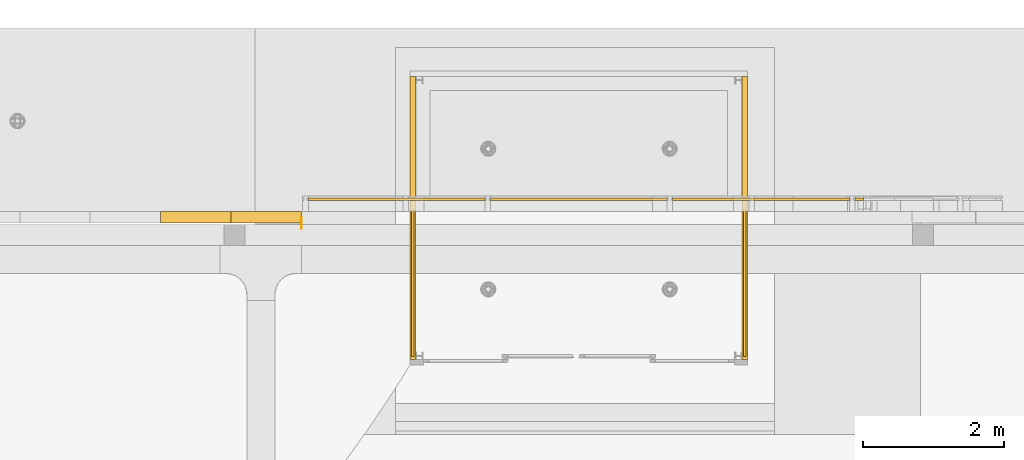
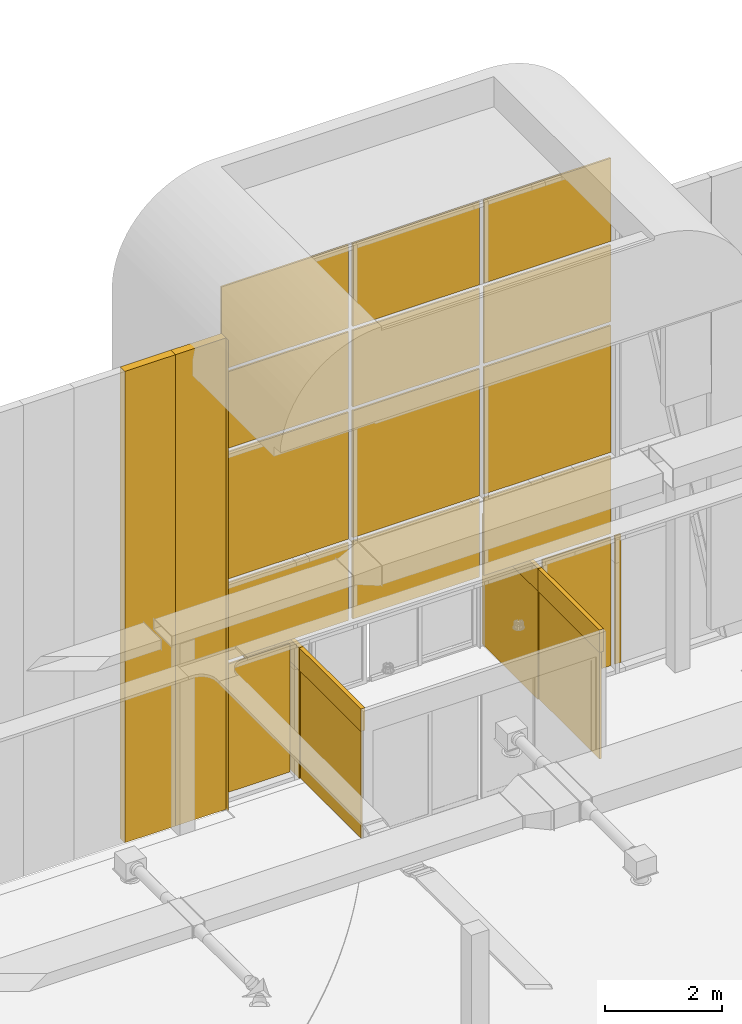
# One storey, part 230 of 302: 26 curtain walls, 4 elements without a shape of their own.
"""IFC2X3 building model written with IfcOpenShell, lengths in metres."""

from ifc_helpers import new_model, entity, si_unit, converted_unit, derived_unit, direction, frame, frame_2d, origin, place, context, subcontext, project, spatial, rectangle, extrude, material, layer, layer_set, layer_usage, type_object, element, aggregate, save


model = new_model("IFC2X3")

# Units and contexts
model_context = context("Model", 3, precision=1e-05, world=origin(), true_north=direction((6.12303176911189e-17, 1.0)))
body_context = subcontext(model_context, "Body", "Model", "MODEL_VIEW")
ifc_project = project(units=[si_unit("LENGTHUNIT", "METRE"), si_unit("AREAUNIT", "SQUARE_METRE"), si_unit("VOLUMEUNIT", "CUBIC_METRE"), converted_unit("PLANEANGLEUNIT", "DEGREE", entity("IfcRatioMeasure", 0.0174532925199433), si_unit("PLANEANGLEUNIT", "RADIAN"), dimensions=[0, 0, 0, 0, 0, 0, 0]), si_unit("MASSUNIT", "GRAM", prefix="KILO"), derived_unit("MASSDENSITYUNIT", [(si_unit("MASSUNIT", "GRAM", prefix="KILO"), 1), (si_unit("LENGTHUNIT", "METRE"), -3)]), derived_unit("MOMENTOFINERTIAUNIT", [(si_unit("LENGTHUNIT", "METRE"), 4)]), si_unit("TIMEUNIT", "SECOND"), si_unit("FREQUENCYUNIT", "HERTZ"), si_unit("THERMODYNAMICTEMPERATUREUNIT", "DEGREE_CELSIUS"), derived_unit("THERMALTRANSMITTANCEUNIT", [(si_unit("MASSUNIT", "GRAM", prefix="KILO"), 1), (si_unit("THERMODYNAMICTEMPERATUREUNIT", "KELVIN"), -1), (si_unit("TIMEUNIT", "SECOND"), -3)]), derived_unit("VOLUMETRICFLOWRATEUNIT", [(si_unit("LENGTHUNIT", "METRE"), 3), (si_unit("TIMEUNIT", "SECOND"), -1)]), si_unit("ELECTRICCURRENTUNIT", "AMPERE"), si_unit("ELECTRICVOLTAGEUNIT", "VOLT"), si_unit("POWERUNIT", "WATT"), si_unit("FORCEUNIT", "NEWTON", prefix="KILO"), si_unit("ILLUMINANCEUNIT", "LUX"), si_unit("LUMINOUSFLUXUNIT", "LUMEN"), si_unit("LUMINOUSINTENSITYUNIT", "CANDELA"), derived_unit("USERDEFINED", [(si_unit("MASSUNIT", "GRAM", prefix="KILO"), -1), (si_unit("LENGTHUNIT", "METRE"), -2), (si_unit("TIMEUNIT", "SECOND"), 3), (si_unit("LUMINOUSFLUXUNIT", "LUMEN"), 1)]), derived_unit("LINEARVELOCITYUNIT", [(si_unit("LENGTHUNIT", "METRE"), 1), (si_unit("TIMEUNIT", "SECOND"), -1)]), si_unit("PRESSUREUNIT", "PASCAL"), derived_unit("USERDEFINED", [(si_unit("LENGTHUNIT", "METRE"), -2), (si_unit("MASSUNIT", "GRAM", prefix="KILO"), 1), (si_unit("TIMEUNIT", "SECOND"), -2)]), derived_unit("LINEARFORCEUNIT", [(si_unit("MASSUNIT", "GRAM", prefix="KILO"), 1), (si_unit("LENGTHUNIT", "METRE"), 1), (si_unit("TIMEUNIT", "SECOND"), -2), (si_unit("LENGTHUNIT", "METRE"), -1)]), derived_unit("PLANARFORCEUNIT", [(si_unit("MASSUNIT", "GRAM", prefix="KILO"), 1), (si_unit("LENGTHUNIT", "METRE"), 1), (si_unit("TIMEUNIT", "SECOND"), -2), (si_unit("LENGTHUNIT", "METRE"), -2)])], contexts=[model_context])

# Site, building, storey
site_placement = place(None, origin())
site = spatial("IfcSite", under=ifc_project, at=site_placement, Name="Default", CompositionType="ELEMENT")
building_placement = place(site_placement, origin())
building = spatial("IfcBuilding", under=site, at=building_placement, CompositionType="ELEMENT")
storey_placement = place(building_placement, frame((0.0, 0.0, -1.3)))
storey = spatial("IfcBuildingStorey", under=building, at=storey_placement, Name="00_EG", CompositionType="ELEMENT", Elevation=-1.3)

# Curtain walls
curtain_wall_type_1 = type_object("IfcCurtainWallType", Name="Fassade:Sandwichpaneele 16cm", PredefinedType="NOTDEFINED")
curtain_wall_1_placement = place(storey_placement, frame((0.0, 0.0, 1.3)))
curtain_wall_1 = element("IfcCurtainWall", 1, at=curtain_wall_1_placement, inside=storey, type_object=curtain_wall_type_1, Name="Fassade:Sandwichpaneele 16cm", ObjectType="Fassade:Sandwichpaneele 16cm")
ifc_material_1 = material(Name="Prepainted_Steel-ArcelorMittal_Construction_HAIRULTRA-35-CORAL-4309-[RAL_3000]")
ifc_layer_1 = layer(ifc_material_1, 0.015)
ifc_material_2 = material(Name="ArcelorMittal-MineralWool")
ifc_layer_2 = layer(ifc_material_2, 0.13)
ifc_material_3 = material(Name="Prepainted_Steel-ArcelorMittal_Construction_INTÉRIEUR-12-WHITE-912")
ifc_layer_3 = layer(ifc_material_3, 0.015)
ifc_layer_set_1 = layer_set([ifc_layer_1, ifc_layer_2, ifc_layer_3], Name="Fassade:Sandwichpaneele 16cm")
ifc_layer_usage_1 = layer_usage(ifc_layer_set_1, "AXIS2", "POSITIVE", -0.08)
curtain_wall_type_2 = type_object("IfcCurtainWallType", Name="Basiswand:Sandwichpaneele d = 16cm aussen", PredefinedType="NOTDEFINED", material=ifc_layer_set_1)
curtain_wall_2_placement = place(storey_placement, frame((-236.193861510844, 45.578088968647, 1.27), z_axis=(0.0, 0.0, 1.0), x_axis=(-1.0, 0.0, 0.0)))
curtain_wall_2 = element("IfcCurtainWall", 2, at=curtain_wall_2_placement, type_object=curtain_wall_type_2, material=ifc_layer_usage_1, Name="Basiswand:Sandwichpaneele d = 16cm aussen", ObjectType="Basiswand:Sandwichpaneele d = 16cm aussen", context=body_context, shape_type="SweptSolid", body=[
    extrude(rectangle(XDim=0.00500000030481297, YDim=0.159999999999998, at=frame_2d((0.00250000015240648, 0.0), x_axis=(-1.0, 0.0))), origin(), (0.0, 0.0, 1.0), 9.8509),
])
ifc_layer_usage_2 = layer_usage(ifc_layer_set_1, "AXIS2", "POSITIVE", -0.08)
curtain_wall_3_placement = place(storey_placement, frame((-236.198861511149, 45.658088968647, 1.27), z_axis=(0.0, 0.0, 1.0), x_axis=(-1.0, 0.0, 0.0)))
curtain_wall_3 = element("IfcCurtainWall", 3, at=curtain_wall_3_placement, type_object=curtain_wall_type_2, material=ifc_layer_usage_2, Name="Basiswand:Sandwichpaneele d = 16cm aussen", ObjectType="Basiswand:Sandwichpaneele d = 16cm aussen", context=body_context, shape_type="SweptSolid", body=[
    extrude(rectangle(XDim=0.999999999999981, YDim=0.159999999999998, at=frame_2d((0.49999999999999, 0.0), x_axis=(-1.0, 0.0))), origin(), (0.0, 0.0, 1.0), 9.8509),
])
ifc_layer_usage_3 = layer_usage(ifc_layer_set_1, "AXIS2", "POSITIVE", -0.08)
curtain_wall_4_placement = place(storey_placement, frame((-237.198861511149, 45.658088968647, 1.27), z_axis=(0.0, 0.0, 1.0), x_axis=(-1.0, 0.0, 0.0)))
curtain_wall_4 = element("IfcCurtainWall", 4, at=curtain_wall_4_placement, type_object=curtain_wall_type_2, material=ifc_layer_usage_3, Name="Basiswand:Sandwichpaneele d = 16cm aussen", ObjectType="Basiswand:Sandwichpaneele d = 16cm aussen", context=body_context, shape_type="SweptSolid", body=[
    extrude(rectangle(XDim=1.00000000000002, YDim=0.159999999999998, at=frame_2d((0.500000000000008, 0.0), x_axis=(-1.0, 0.0))), origin(), (0.0, 0.0, 1.0), 9.8509),
])
aggregate(curtain_wall_1, [curtain_wall_2, curtain_wall_3, curtain_wall_4])

curtain_wall_type_3 = type_object("IfcCurtainWallType", Name="Fassade:Sandwichpaneele 8.4 cm", PredefinedType="NOTDEFINED")
curtain_wall_5_placement = place(storey_placement, frame((0.0, 0.0, 1.3)))
curtain_wall_5 = element("IfcCurtainWall", 5, at=curtain_wall_5_placement, inside=storey, type_object=curtain_wall_type_3, Name="Fassade:Sandwichpaneele 8.4 cm", ObjectType="Fassade:Sandwichpaneele 8.4 cm")
ifc_material_4 = material(Name="Glass")
ifc_layer_4 = layer(ifc_material_4, 0.035)
ifc_layer_set_2 = layer_set([ifc_layer_4], Name="Fassade:Sandwichpaneele 16cm")
ifc_layer_usage_4 = layer_usage(ifc_layer_set_2, "AXIS2", "NEGATIVE", 0.0175)
curtain_wall_type_4 = type_object("IfcCurtainWallType", Name="Basiswand:Glass", PredefinedType="NOTDEFINED", material=ifc_layer_set_2)
curtain_wall_6_placement = place(storey_placement, frame((-229.895861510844, 45.748088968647, 1.27), z_axis=(0.0, 0.0, 1.0), x_axis=(0.0, -1.0, 0.0)))
curtain_wall_6 = element("IfcCurtainWall", 6, at=curtain_wall_6_placement, type_object=curtain_wall_type_4, material=ifc_layer_usage_4, Name="Basiswand:Glass", ObjectType="Basiswand:Glass", context=body_context, shape_type="SweptSolid", body=[
    extrude(rectangle(XDim=2.07000000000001, YDim=0.0349999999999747, at=frame_2d((1.035, 0.0), x_axis=(-1.0, 0.0))), origin(), (0.0, 0.0, 1.0), 2.25999999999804),
])

curtain_wall_type_5 = type_object("IfcCurtainWallType", Name="Fassade:Glasfassade", PredefinedType="NOTDEFINED")
curtain_wall_7_placement = place(storey_placement, frame((0.0, 0.0, 1.3)))
curtain_wall_7 = element("IfcCurtainWall", 7, at=curtain_wall_7_placement, inside=storey, type_object=curtain_wall_type_5, Name="Fassade:Glasfassade", ObjectType="Fassade:Glasfassade")
ifc_layer_usage_5 = layer_usage(ifc_layer_set_2, "AXIS2", "POSITIVE", -0.0175)
curtain_wall_8_placement = place(storey_placement, frame((-228.207969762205, 45.915588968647, 1.35), z_axis=(0.0, 0.0, 1.0), x_axis=(-1.0, 0.0, 0.0)))
curtain_wall_8 = element("IfcCurtainWall", 8, at=curtain_wall_8_placement, type_object=curtain_wall_type_4, material=ifc_layer_usage_5, Name="Basiswand:Glass", ObjectType="Basiswand:Glass", context=body_context, shape_type="SweptSolid", body=[
    extrude(rectangle(XDim=0.119999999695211, YDim=0.034999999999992, at=frame_2d((0.0599999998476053, 0.0), x_axis=(-1.0, 0.0))), origin(), (0.0, 0.0, 1.0), 2.67999999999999),
])
ifc_layer_usage_6 = layer_usage(ifc_layer_set_2, "AXIS2", "POSITIVE", -0.0175)
curtain_wall_9_placement = place(storey_placement, frame((-228.4079697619, 45.915588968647, 1.35), z_axis=(0.0, 0.0, 1.0), x_axis=(-1.0, 0.0, 0.0)))
curtain_wall_9 = element("IfcCurtainWall", 9, at=curtain_wall_9_placement, type_object=curtain_wall_type_4, material=ifc_layer_usage_6, Name="Basiswand:Glass", ObjectType="Basiswand:Glass", context=body_context, shape_type="SweptSolid", body=[
    extrude(rectangle(XDim=1.34589174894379, YDim=0.034999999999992, at=frame_2d((0.672945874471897, 0.0), x_axis=(-1.0, 0.0))), origin(), (0.0, 0.0, 1.0), 2.67999999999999),
])
ifc_layer_usage_7 = layer_usage(ifc_layer_set_2, "AXIS2", "POSITIVE", -0.0175)
curtain_wall_10_placement = place(storey_placement, frame((-234.753861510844, 45.915588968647, 1.35), z_axis=(0.0, 0.0, 1.0), x_axis=(-1.0, 0.0, 0.0)))
curtain_wall_10 = element("IfcCurtainWall", 10, at=curtain_wall_10_placement, type_object=curtain_wall_type_4, material=ifc_layer_usage_7, Name="Basiswand:Glass", ObjectType="Basiswand:Glass", context=body_context, shape_type="SweptSolid", body=[
    extrude(rectangle(XDim=1.34500000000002, YDim=0.034999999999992, at=frame_2d((0.672500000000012, 0.0), x_axis=(-1.0, 0.0))), origin(), (0.0, 0.0, 1.0), 2.67999999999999),
])
ifc_layer_usage_8 = layer_usage(ifc_layer_set_2, "AXIS2", "POSITIVE", -0.0175)
curtain_wall_11_placement = place(storey_placement, frame((-228.4079697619, 45.915588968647, 4.10999999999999), z_axis=(0.0, 0.0, 1.0), x_axis=(-1.0, 0.0, 0.0)))
curtain_wall_11 = element("IfcCurtainWall", 11, at=curtain_wall_11_placement, type_object=curtain_wall_type_4, material=ifc_layer_usage_8, Name="Basiswand:Glass", ObjectType="Basiswand:Glass", context=body_context, shape_type="SweptSolid", body=[
    extrude(rectangle(XDim=2.51089174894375, YDim=0.034999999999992, at=frame_2d((1.25544587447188, 0.0), x_axis=(-1.0, 0.0))), origin(), (0.0, 0.0, 1.0), 1.62),
])
ifc_layer_usage_9 = layer_usage(ifc_layer_set_2, "AXIS2", "POSITIVE", -0.0175)
curtain_wall_12_placement = place(storey_placement, frame((-230.998861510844, 45.915588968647, 4.10999999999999), z_axis=(0.0, 0.0, 1.0), x_axis=(-1.0, 0.0, 0.0)))
curtain_wall_12 = element("IfcCurtainWall", 12, at=curtain_wall_12_placement, type_object=curtain_wall_type_4, material=ifc_layer_usage_9, Name="Basiswand:Glass", ObjectType="Basiswand:Glass", context=body_context, shape_type="SweptSolid", body=[
    extrude(rectangle(XDim=2.51000000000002, YDim=0.034999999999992, at=frame_2d((1.25500000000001, 0.0), x_axis=(-1.0, 0.0))), origin(), (0.0, 0.0, 1.0), 1.62),
])
ifc_layer_usage_10 = layer_usage(ifc_layer_set_2, "AXIS2", "POSITIVE", -0.0175)
curtain_wall_13_placement = place(storey_placement, frame((-233.588861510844, 45.915588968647, 4.10999999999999), z_axis=(0.0, 0.0, 1.0), x_axis=(-1.0, 0.0, 0.0)))
curtain_wall_13 = element("IfcCurtainWall", 13, at=curtain_wall_13_placement, type_object=curtain_wall_type_4, material=ifc_layer_usage_10, Name="Basiswand:Glass", ObjectType="Basiswand:Glass", context=body_context, shape_type="SweptSolid", body=[
    extrude(rectangle(XDim=2.51000000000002, YDim=0.034999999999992, at=frame_2d((1.25500000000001, 0.0), x_axis=(-1.0, 0.0))), origin(), (0.0, 0.0, 1.0), 1.62),
])
ifc_layer_usage_11 = layer_usage(ifc_layer_set_2, "AXIS2", "POSITIVE", -0.0175)
curtain_wall_14_placement = place(storey_placement, frame((-228.4079697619, 45.915588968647, 5.81), z_axis=(0.0, 0.0, 1.0), x_axis=(-1.0, 0.0, 0.0)))
curtain_wall_14 = element("IfcCurtainWall", 14, at=curtain_wall_14_placement, type_object=curtain_wall_type_4, material=ifc_layer_usage_11, Name="Basiswand:Glass", ObjectType="Basiswand:Glass", context=body_context, shape_type="SweptSolid", body=[
    extrude(rectangle(XDim=2.51089174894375, YDim=0.034999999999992, at=frame_2d((1.25544587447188, 0.0), x_axis=(-1.0, 0.0))), origin(), (0.0, 0.0, 1.0), 2.64999999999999),
])
ifc_layer_usage_12 = layer_usage(ifc_layer_set_2, "AXIS2", "POSITIVE", -0.0175)
curtain_wall_15_placement = place(storey_placement, frame((-230.998861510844, 45.915588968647, 5.81), z_axis=(0.0, 0.0, 1.0), x_axis=(-1.0, 0.0, 0.0)))
curtain_wall_15 = element("IfcCurtainWall", 15, at=curtain_wall_15_placement, type_object=curtain_wall_type_4, material=ifc_layer_usage_12, Name="Basiswand:Glass", ObjectType="Basiswand:Glass", context=body_context, shape_type="SweptSolid", body=[
    extrude(rectangle(XDim=2.51000000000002, YDim=0.034999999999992, at=frame_2d((1.25500000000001, 0.0), x_axis=(-1.0, 0.0))), origin(), (0.0, 0.0, 1.0), 2.65),
])
ifc_layer_usage_13 = layer_usage(ifc_layer_set_2, "AXIS2", "POSITIVE", -0.0175)
curtain_wall_16_placement = place(storey_placement, frame((-233.588861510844, 45.915588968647, 5.81), z_axis=(0.0, 0.0, 1.0), x_axis=(-1.0, 0.0, 0.0)))
curtain_wall_16 = element("IfcCurtainWall", 16, at=curtain_wall_16_placement, type_object=curtain_wall_type_4, material=ifc_layer_usage_13, Name="Basiswand:Glass", ObjectType="Basiswand:Glass", context=body_context, shape_type="SweptSolid", body=[
    extrude(rectangle(XDim=2.51000000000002, YDim=0.034999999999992, at=frame_2d((1.25500000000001, 0.0), x_axis=(-1.0, 0.0))), origin(), (0.0, 0.0, 1.0), 2.65),
])
ifc_layer_usage_14 = layer_usage(ifc_layer_set_2, "AXIS2", "POSITIVE", -0.0175)
curtain_wall_17_placement = place(storey_placement, frame((-228.4079697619, 45.915588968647, 8.53999999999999), z_axis=(0.0, 0.0, 1.0), x_axis=(-1.0, 0.0, 0.0)))
curtain_wall_17 = element("IfcCurtainWall", 17, at=curtain_wall_17_placement, type_object=curtain_wall_type_4, material=ifc_layer_usage_14, Name="Basiswand:Glass", ObjectType="Basiswand:Glass", context=body_context, shape_type="SweptSolid", body=[
    extrude(rectangle(XDim=2.51089174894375, YDim=0.034999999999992, at=frame_2d((1.25544587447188, 0.0), x_axis=(-1.0, 0.0))), origin(), (0.0, 0.0, 1.0), 1.60000000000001),
])
ifc_layer_usage_15 = layer_usage(ifc_layer_set_2, "AXIS2", "POSITIVE", -0.0175)
curtain_wall_18_placement = place(storey_placement, frame((-230.998861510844, 45.915588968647, 8.53999999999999), z_axis=(0.0, 0.0, 1.0), x_axis=(-1.0, 0.0, 0.0)))
curtain_wall_18 = element("IfcCurtainWall", 18, at=curtain_wall_18_placement, type_object=curtain_wall_type_4, material=ifc_layer_usage_15, Name="Basiswand:Glass", ObjectType="Basiswand:Glass", context=body_context, shape_type="SweptSolid", body=[
    extrude(rectangle(XDim=2.51000000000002, YDim=0.034999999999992, at=frame_2d((1.25500000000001, 0.0), x_axis=(-1.0, 0.0))), origin(), (0.0, 0.0, 1.0), 1.60000000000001),
])
ifc_layer_usage_16 = layer_usage(ifc_layer_set_2, "AXIS2", "POSITIVE", -0.0175)
curtain_wall_19_placement = place(storey_placement, frame((-233.588861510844, 45.915588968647, 8.53999999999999), z_axis=(0.0, 0.0, 1.0), x_axis=(-1.0, 0.0, 0.0)))
curtain_wall_19 = element("IfcCurtainWall", 19, at=curtain_wall_19_placement, type_object=curtain_wall_type_4, material=ifc_layer_usage_16, Name="Basiswand:Glass", ObjectType="Basiswand:Glass", context=body_context, shape_type="SweptSolid", body=[
    extrude(rectangle(XDim=2.51000000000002, YDim=0.034999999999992, at=frame_2d((1.25500000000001, 0.0), x_axis=(-1.0, 0.0))), origin(), (0.0, 0.0, 1.0), 1.60000000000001),
])
ifc_layer_usage_17 = layer_usage(ifc_layer_set_2, "AXIS2", "POSITIVE", -0.0175)
curtain_wall_20_placement = place(storey_placement, frame((-228.4079697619, 45.915588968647, 10.22), z_axis=(0.0, 0.0, 1.0), x_axis=(-1.0, 0.0, 0.0)))
curtain_wall_20 = element("IfcCurtainWall", 20, at=curtain_wall_20_placement, type_object=curtain_wall_type_4, material=ifc_layer_usage_17, Name="Basiswand:Glass", ObjectType="Basiswand:Glass", context=body_context, shape_type="SweptSolid", body=[
    extrude(rectangle(XDim=2.51089174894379, YDim=0.034999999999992, at=frame_2d((1.25544587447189, 0.0), x_axis=(-1.0, 0.0))), origin(), (0.0, 0.0, 1.0), 1.73659527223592),
])
ifc_layer_usage_18 = layer_usage(ifc_layer_set_2, "AXIS2", "POSITIVE", -0.0175)
curtain_wall_21_placement = place(storey_placement, frame((-230.998861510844, 45.915588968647, 10.22), z_axis=(0.0, 0.0, 1.0), x_axis=(-1.0, 0.0, 0.0)))
curtain_wall_21 = element("IfcCurtainWall", 21, at=curtain_wall_21_placement, type_object=curtain_wall_type_4, material=ifc_layer_usage_18, Name="Basiswand:Glass", ObjectType="Basiswand:Glass", context=body_context, shape_type="SweptSolid", body=[
    extrude(rectangle(XDim=2.51000000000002, YDim=0.034999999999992, at=frame_2d((1.25500000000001, 0.0), x_axis=(-1.0, 0.0))), origin(), (0.0, 0.0, 1.0), 1.735),
])
ifc_layer_usage_19 = layer_usage(ifc_layer_set_2, "AXIS2", "POSITIVE", -0.0175)
curtain_wall_22_placement = place(storey_placement, frame((-233.588861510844, 45.915588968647, 10.22), z_axis=(0.0, 0.0, 1.0), x_axis=(-1.0, 0.0, 0.0)))
curtain_wall_22 = element("IfcCurtainWall", 22, at=curtain_wall_22_placement, type_object=curtain_wall_type_4, material=ifc_layer_usage_19, Name="Basiswand:Glass", ObjectType="Basiswand:Glass", context=body_context, shape_type="SweptSolid", body=[
    extrude(rectangle(XDim=2.51000000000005, YDim=0.034999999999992, at=frame_2d((1.25500000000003, 0.0), x_axis=(-1.0, 0.0))), origin(), (0.0, 0.0, 1.0), 1.73659527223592),
])
aggregate(curtain_wall_7, [curtain_wall_8, curtain_wall_9, curtain_wall_10, curtain_wall_11, curtain_wall_12, curtain_wall_13, curtain_wall_14, curtain_wall_15, curtain_wall_16, curtain_wall_17, curtain_wall_18, curtain_wall_19, curtain_wall_20, curtain_wall_21, curtain_wall_22])

curtain_wall_23_placement = place(storey_placement, frame((0.0, 0.0, 1.3)))
curtain_wall_23 = element("IfcCurtainWall", 23, at=curtain_wall_23_placement, inside=storey, type_object=curtain_wall_type_3, Name="Fassade:Sandwichpaneele 8.4 cm", ObjectType="Fassade:Sandwichpaneele 8.4 cm")
ifc_layer_usage_20 = layer_usage(ifc_layer_set_2, "AXIS2", "POSITIVE", -0.0175)
curtain_wall_24_placement = place(storey_placement, frame((-234.611861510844, 45.748088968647, 1.27), z_axis=(0.0, 0.0, 1.0), x_axis=(0.0, -1.0, 0.0)))
curtain_wall_24 = element("IfcCurtainWall", 24, at=curtain_wall_24_placement, type_object=curtain_wall_type_4, material=ifc_layer_usage_20, Name="Basiswand:Glass", ObjectType="Basiswand:Glass", context=body_context, shape_type="SweptSolid", body=[
    extrude(rectangle(XDim=2.07000000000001, YDim=0.0349999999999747, at=frame_2d((1.035, 0.0), x_axis=(-1.0, 0.0))), origin(), (0.0, 0.0, 1.0), 2.25999999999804),
])

# Curtain wall
ifc_layer_5 = layer(ifc_material_1, 0.005)
ifc_layer_6 = layer(ifc_material_2, 0.075)
ifc_layer_set_3 = layer_set([ifc_layer_5, ifc_layer_6], Name="Fassade:Sandwichpaneele 8.4 cm")
ifc_layer_usage_21 = layer_usage(ifc_layer_set_3, "AXIS2", "NEGATIVE", 0.04)
curtain_wall_type_6 = type_object("IfcCurtainWallType", Name="Basiswand:Sandwichpaneele d = 8.4cm aussen", PredefinedType="NOTDEFINED", material=ifc_layer_set_3)
curtain_wall_25_placement = place(storey_placement, frame((-229.895861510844, 47.658088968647, 1.27), z_axis=(0.0, 0.0, 1.0), x_axis=(0.0, -1.0, 0.0)))
curtain_wall_25 = element("IfcCurtainWall", 25, at=curtain_wall_25_placement, type_object=curtain_wall_type_6, material=ifc_layer_usage_21, Name="Basiswand:Sandwichpaneele d = 8.4cm aussen", ObjectType="Basiswand:Sandwichpaneele d = 8.4cm aussen", context=body_context, shape_type="SweptSolid", body=[
    extrude(rectangle(XDim=1.91, YDim=0.0799999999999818, at=frame_2d((0.955, 0.0), x_axis=(-1.0, 0.0))), origin(), (0.0, 0.0, 1.0), 2.25999999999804),
])

ifc_layer_usage_22 = layer_usage(ifc_layer_set_3, "AXIS2", "NEGATIVE", 0.04)
curtain_wall_26_placement = place(storey_placement, frame((-229.895861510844, 47.658088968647, 3.52999999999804), z_axis=(0.0, 0.0, 1.0), x_axis=(0.0, -1.0, 0.0)))
curtain_wall_26 = element("IfcCurtainWall", 26, at=curtain_wall_26_placement, type_object=curtain_wall_type_6, material=ifc_layer_usage_22, Name="Basiswand:Sandwichpaneele d = 8.4cm aussen", ObjectType="Basiswand:Sandwichpaneele d = 8.4cm aussen", context=body_context, shape_type="SweptSolid", body=[
    extrude(rectangle(XDim=1.91, YDim=0.0799999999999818, at=frame_2d((0.955, 0.0), x_axis=(-1.0, 0.0))), origin(), (0.0, 0.0, 1.0), 0.470000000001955),
])

ifc_layer_usage_23 = layer_usage(ifc_layer_set_3, "AXIS2", "NEGATIVE", 0.04)
curtain_wall_27_placement = place(storey_placement, frame((-229.895861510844, 45.748088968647, 3.52999999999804), z_axis=(0.0, 0.0, 1.0), x_axis=(0.0, -1.0, 0.0)))
curtain_wall_27 = element("IfcCurtainWall", 27, at=curtain_wall_27_placement, type_object=curtain_wall_type_6, material=ifc_layer_usage_23, Name="Basiswand:Sandwichpaneele d = 8.4cm aussen", ObjectType="Basiswand:Sandwichpaneele d = 8.4cm aussen", context=body_context, shape_type="SweptSolid", body=[
    extrude(rectangle(XDim=2.11000000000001, YDim=0.0799999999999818, at=frame_2d((1.055, 0.0), x_axis=(-1.0, 0.0))), origin(), (0.0, 0.0, 1.0), 0.470000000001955),
])

aggregate(curtain_wall_5, [curtain_wall_25, curtain_wall_6, curtain_wall_26, curtain_wall_27])

ifc_layer_usage_24 = layer_usage(ifc_layer_set_3, "AXIS2", "POSITIVE", -0.04)
curtain_wall_28_placement = place(storey_placement, frame((-234.611861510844, 47.658088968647, 1.27), z_axis=(0.0, 0.0, 1.0), x_axis=(0.0, -1.0, 0.0)))
curtain_wall_28 = element("IfcCurtainWall", 28, at=curtain_wall_28_placement, type_object=curtain_wall_type_6, material=ifc_layer_usage_24, Name="Basiswand:Sandwichpaneele d = 8.4cm aussen", ObjectType="Basiswand:Sandwichpaneele d = 8.4cm aussen", context=body_context, shape_type="SweptSolid", body=[
    extrude(rectangle(XDim=1.91, YDim=0.0799999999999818, at=frame_2d((0.955, 0.0), x_axis=(-1.0, 0.0))), origin(), (0.0, 0.0, 1.0), 2.25999999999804),
])

ifc_layer_usage_25 = layer_usage(ifc_layer_set_3, "AXIS2", "POSITIVE", -0.04)
curtain_wall_29_placement = place(storey_placement, frame((-234.611861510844, 47.658088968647, 3.52999999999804), z_axis=(0.0, 0.0, 1.0), x_axis=(0.0, -1.0, 0.0)))
curtain_wall_29 = element("IfcCurtainWall", 29, at=curtain_wall_29_placement, type_object=curtain_wall_type_6, material=ifc_layer_usage_25, Name="Basiswand:Sandwichpaneele d = 8.4cm aussen", ObjectType="Basiswand:Sandwichpaneele d = 8.4cm aussen", context=body_context, shape_type="SweptSolid", body=[
    extrude(rectangle(XDim=1.91, YDim=0.0799999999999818, at=frame_2d((0.955, 0.0), x_axis=(-1.0, 0.0))), origin(), (0.0, 0.0, 1.0), 0.470000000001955),
])

ifc_layer_usage_26 = layer_usage(ifc_layer_set_3, "AXIS2", "POSITIVE", -0.04)
curtain_wall_30_placement = place(storey_placement, frame((-234.611861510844, 45.748088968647, 3.52999999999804), z_axis=(0.0, 0.0, 1.0), x_axis=(0.0, -1.0, 0.0)))
curtain_wall_30 = element("IfcCurtainWall", 30, at=curtain_wall_30_placement, type_object=curtain_wall_type_6, material=ifc_layer_usage_26, Name="Basiswand:Sandwichpaneele d = 8.4cm aussen", ObjectType="Basiswand:Sandwichpaneele d = 8.4cm aussen", context=body_context, shape_type="SweptSolid", body=[
    extrude(rectangle(XDim=2.11000000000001, YDim=0.0799999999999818, at=frame_2d((1.055, 0.0), x_axis=(-1.0, 0.0))), origin(), (0.0, 0.0, 1.0), 0.470000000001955),
])

aggregate(curtain_wall_23, [curtain_wall_28, curtain_wall_24, curtain_wall_29, curtain_wall_30])

save(model, "model.ifc")
